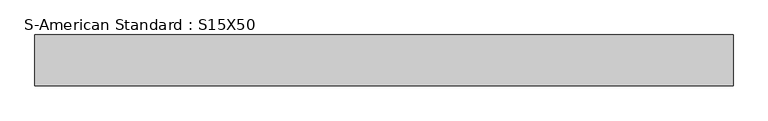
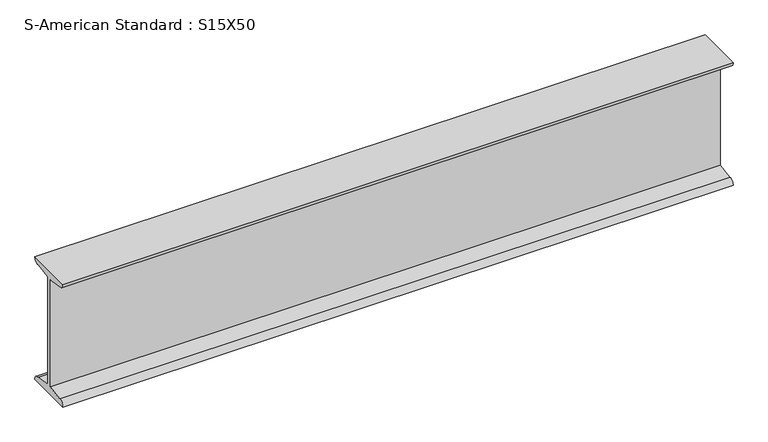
"""IFC4 building model written with IfcOpenShell, lengths in millimetres: beam geometry, S-American Standard : S15X50."""

from ifc_helpers import new_model, si_unit, point, frame, frame_2d, origin, place, context, project, spatial, polyline, circle_curve, trimmed, segment, composite_curve, outline, extrude, source, transform, mapped, element, save


def s_american_standard_s15x50_5fe9eba2(model_context):
    return source(origin(), model_context, "Body", "SweptSolid", [
        extrude(outline(composite_curve([segment(polyline([(-71.628, 190.5), (71.628, 190.5)]), True, "CONTINUOUS"), segment(trimmed(circle_curve(frame_2d((55.8292, 190.5)), 15.7988), [point((71.628, 190.5))], [point((55.8292, 174.7012))], False, "CARTESIAN"), True, "CONTINUOUS"), segment(polyline([(55.8292, 174.7012), (6.985, 166.9650387), (6.985, -166.9650387), (55.8292, -174.7012)]), True, "CONTINUOUS"), segment(trimmed(circle_curve(frame_2d((55.8292, -190.5)), 15.7988), [point((55.8292, -174.7012))], [point((71.628, -190.5))], False, "CARTESIAN"), True, "CONTINUOUS"), segment(polyline([(71.628, -190.5), (-71.628, -190.5)]), True, "CONTINUOUS"), segment(trimmed(circle_curve(frame_2d((-55.8292, -190.5)), 15.7988), [point((-71.628, -190.5))], [point((-55.8292, -174.7012))], False, "CARTESIAN"), True, "CONTINUOUS"), segment(polyline([(-55.8292, -174.7012), (-6.985, -166.9650387), (-6.985, 166.9650387), (-55.8292, 174.7012)]), True, "CONTINUOUS"), segment(trimmed(circle_curve(frame_2d((-55.8292, 190.5)), 15.7988), [point((-55.8292, 174.7012))], [point((-71.628, 190.5))], False, "CARTESIAN"), True, "CONTINUOUS")], self_intersect=False)), frame((-910.1489443, 0.0, 0.0), z_axis=(1.0, 0.0, 0.0), x_axis=(0.0, 1.0, 0.0)), (0.0, 0.0, 1.0), 1973.4743953),
    ])


if __name__ == "__main__":
    model = new_model("IFC4")
    model_context = context("Model", 3, world=origin())
    ifc_project = project(units=[si_unit("LENGTHUNIT", "METRE", prefix="MILLI")], contexts=[model_context])
    site = spatial("IfcSite", under=ifc_project)
    building = spatial("IfcBuilding", under=site)
    placement = place(None, origin())
    s_american_standard_s15x50_shape = s_american_standard_s15x50_5fe9eba2(model_context)
    element("IfcBeam", 1, ObjectType="S-American Standard : S15X50", at=placement, inside=building, context=model_context, shape_type="MappedRepresentation", body=[
        mapped(s_american_standard_s15x50_shape, transform((0.0, 0.0, 0.0), x_axis=(1.0, 0.0, 0.0), y_axis=(0.0, 1.0, 0.0), z_axis=(0.0, 0.0, 1.0))),
    ])
    save(model, "model.ifc")
